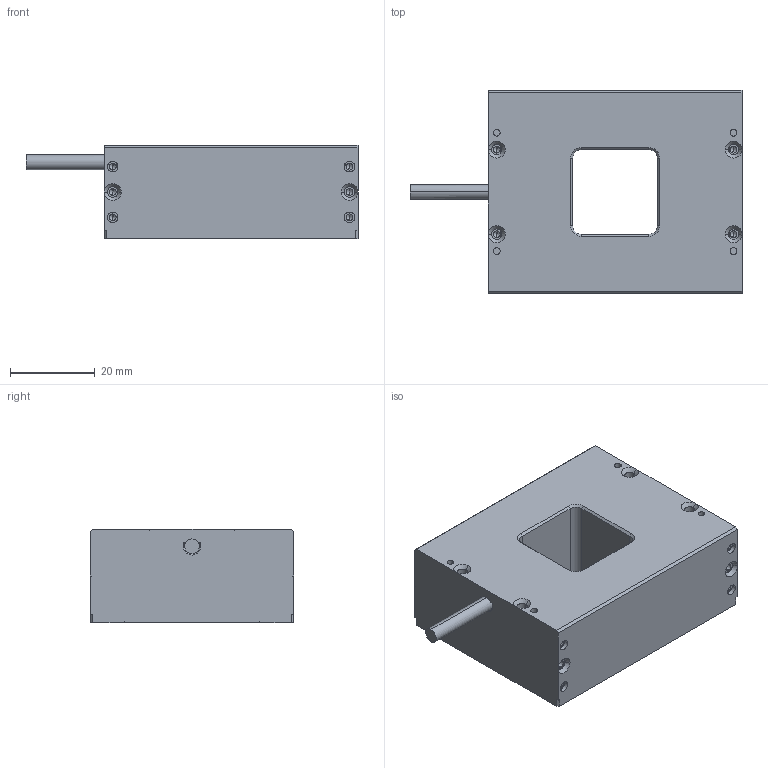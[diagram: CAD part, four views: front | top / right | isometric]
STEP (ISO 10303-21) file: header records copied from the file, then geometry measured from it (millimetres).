
FILE_DESCRIPTION((''),'2;1');
FILE_NAME('P-HFLK-52-46-1','2023-03-24T',('Rsee'),(''),'PRO/ENGINEER BY PARAMETRIC TECHNOLOGY CORPORATION, 2010100','PRO/ENGINEER BY PARAMETRIC TECHNOLOGY CORPORATION, 2010100','');
FILE_SCHEMA(('CONFIG_CONTROL_DESIGN'));
Length unit declared in the file: millimetre
Products named in the file (1): P-HFLK-52-46-1
Bounding box: 78.5 x 48 x 22 mm (x, y, z)
Volume: 23379.6 mm3; surface area: 21195.3 mm2
Topology: 1 solids, 1 shells, 245 faces, 631 edges, 362 vertices
Faces by surface type: cylinder 96, plane 79, cone 70
Entity records: 7183 total; most frequent: DIRECTION 1325, CARTESIAN_POINT 1198, ORIENTED_EDGE 1182, EDGE_CURVE 591, AXIS2_PLACEMENT_3D 489, VERTEX_POINT 362, VECTOR 347, LINE 347
